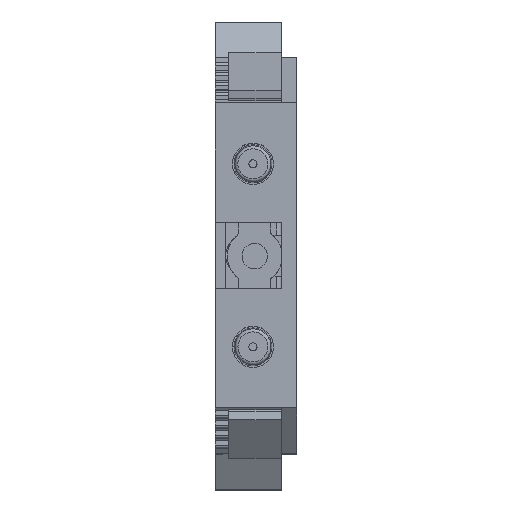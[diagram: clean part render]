
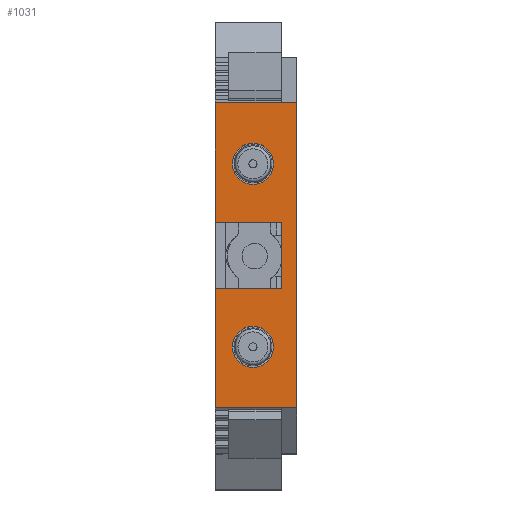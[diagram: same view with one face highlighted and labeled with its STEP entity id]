
A CAD part, top view. The second image highlights one B-rep face of the part: STEP entity #1031.
In plain terms, the highlighted planar face has unit normal (0, 0, 1).
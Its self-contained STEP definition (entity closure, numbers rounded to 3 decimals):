
#1031=ADVANCED_FACE('',(#17955,#17957,#17959),#17961,.T.);
#17955=FACE_BOUND('',#17956,.T.);
#17956=EDGE_LOOP('',(#31376,#31377,#31378,#31379,#31380,#31381,#31382,#31383,#31384,
#31385));
#17957=FACE_BOUND('',#17958,.T.);
#17958=EDGE_LOOP('',(#31386));
#17959=FACE_BOUND('',#17960,.T.);
#17960=EDGE_LOOP('',(#31387));
#17961=PLANE('',#17962);
#17962=AXIS2_PLACEMENT_3D('',#17963,#17964,#17965);
#17963=CARTESIAN_POINT('',(23.,12.,51.4));
#17964=DIRECTION('',(-0.,0.,1.));
#17965=DIRECTION('',(0.,-1.,0.));
#31376=ORIENTED_EDGE('',*,*,#42005,.T.);
#31377=ORIENTED_EDGE('',*,*,#41847,.F.);
#31378=ORIENTED_EDGE('',*,*,#42004,.T.);
#31379=ORIENTED_EDGE('',*,*,#42006,.T.);
#31380=ORIENTED_EDGE('',*,*,#42007,.T.);
#31381=ORIENTED_EDGE('',*,*,#42008,.F.);
#31382=ORIENTED_EDGE('',*,*,#42009,.T.);
#31383=ORIENTED_EDGE('',*,*,#42010,.T.);
#31384=ORIENTED_EDGE('',*,*,#42011,.T.);
#31385=ORIENTED_EDGE('',*,*,#42012,.T.);
#31386=ORIENTED_EDGE('',*,*,#42013,.T.);
#31387=ORIENTED_EDGE('',*,*,#42014,.T.);
#41847=EDGE_CURVE('',#47464,#47466,#47467,.T.);
#42004=EDGE_CURVE('',#47464,#47748,#47750,.F.);
#42005=EDGE_CURVE('',#47751,#47466,#47752,.F.);
#42006=EDGE_CURVE('',#47748,#47753,#47754,.T.);
#42007=EDGE_CURVE('',#47753,#47755,#47756,.F.);
#42008=EDGE_CURVE('',#47757,#47755,#47758,.T.);
#42009=EDGE_CURVE('',#47757,#47759,#47760,.T.);
#42010=EDGE_CURVE('',#47759,#47761,#47762,.T.);
#42011=EDGE_CURVE('',#47761,#47763,#47764,.F.);
#42012=EDGE_CURVE('',#47763,#47751,#47765,.T.);
#42013=EDGE_CURVE('',#47766,#47766,#47767,.F.);
#42014=EDGE_CURVE('',#47768,#47768,#47769,.F.);
#47464=VERTEX_POINT('',#57083);
#47466=VERTEX_POINT('',#57087);
#47467=LINE('',#57088,#57089);
#47748=VERTEX_POINT('',#57701);
#47750=LINE('',#57705,#57706);
#47751=VERTEX_POINT('',#57708);
#47752=LINE('',#57709,#57710);
#47753=VERTEX_POINT('',#57712);
#47754=LINE('',#57713,#57714);
#47755=VERTEX_POINT('',#57716);
#47756=LINE('',#57717,#57718);
#47757=VERTEX_POINT('',#57720);
#47758=LINE('',#57721,#57722);
#47759=VERTEX_POINT('',#57724);
#47760=LINE('',#57725,#57726);
#47761=VERTEX_POINT('',#57728);
#47762=LINE('',#57729,#57730);
#47763=VERTEX_POINT('',#57732);
#47764=LINE('',#57733,#57734);
#47765=LINE('',#57736,#57737);
#47766=VERTEX_POINT('',#57739);
#47767=CIRCLE('',#57740,2.025);
#47768=VERTEX_POINT('',#57744);
#47769=CIRCLE('',#57745,2.025);
#57083=CARTESIAN_POINT('',(29.5,-14.25,51.4));
#57087=CARTESIAN_POINT('',(29.5,-7.75,51.4));
#57088=CARTESIAN_POINT('',(29.5,-14.25,51.4));
#57089=VECTOR('',#57090,1.);
#57090=DIRECTION('',(0.,1.,0.));
#57701=CARTESIAN_POINT('',(23.,-14.25,51.4));
#57705=CARTESIAN_POINT('',(23.,-14.25,51.4));
#57706=VECTOR('',#57707,1.);
#57707=DIRECTION('',(1.,0.,0.));
#57708=CARTESIAN_POINT('',(23.,-7.75,51.4));
#57709=CARTESIAN_POINT('',(29.5,-7.75,51.4));
#57710=VECTOR('',#57711,1.);
#57711=DIRECTION('',(-1.,0.,0.));
#57712=CARTESIAN_POINT('',(23.,-26.,51.4));
#57713=CARTESIAN_POINT('',(23.,-14.25,51.4));
#57714=VECTOR('',#57715,1.);
#57715=DIRECTION('',(0.,-1.,0.));
#57716=CARTESIAN_POINT('',(29.5,-26.,51.4));
#57717=CARTESIAN_POINT('',(29.5,-26.,51.4));
#57718=VECTOR('',#57719,1.);
#57719=DIRECTION('',(-1.,0.,0.));
#57720=CARTESIAN_POINT('',(31.,-26.,51.4));
#57721=CARTESIAN_POINT('',(31.,-26.,51.4));
#57722=VECTOR('',#57723,1.);
#57723=DIRECTION('',(-1.,0.,0.));
#57724=CARTESIAN_POINT('',(31.,4.,51.4));
#57725=CARTESIAN_POINT('',(31.,-26.,51.4));
#57726=VECTOR('',#57727,1.);
#57727=DIRECTION('',(0.,1.,0.));
#57728=CARTESIAN_POINT('',(29.5,4.,51.4));
#57729=CARTESIAN_POINT('',(31.,4.,51.4));
#57730=VECTOR('',#57731,1.);
#57731=DIRECTION('',(-1.,0.,0.));
#57732=CARTESIAN_POINT('',(23.,4.,51.4));
#57733=CARTESIAN_POINT('',(23.,4.,51.4));
#57734=VECTOR('',#57735,1.);
#57735=DIRECTION('',(1.,0.,0.));
#57736=CARTESIAN_POINT('',(23.,4.,51.4));
#57737=VECTOR('',#57738,1.);
#57738=DIRECTION('',(0.,-1.,0.));
#57739=CARTESIAN_POINT('',(26.7,0.025,51.4));
#57740=AXIS2_PLACEMENT_3D('',#57741,#57742,#57743);
#57741=CARTESIAN_POINT('',(26.7,-2.,51.4));
#57742=DIRECTION('',(-0.,0.,1.));
#57743=DIRECTION('',(0.,1.,0.));
#57744=CARTESIAN_POINT('',(26.7,-17.975,51.4));
#57745=AXIS2_PLACEMENT_3D('',#57746,#57747,#57748);
#57746=CARTESIAN_POINT('',(26.7,-20.,51.4));
#57747=DIRECTION('',(-0.,0.,1.));
#57748=DIRECTION('',(0.,1.,0.));
